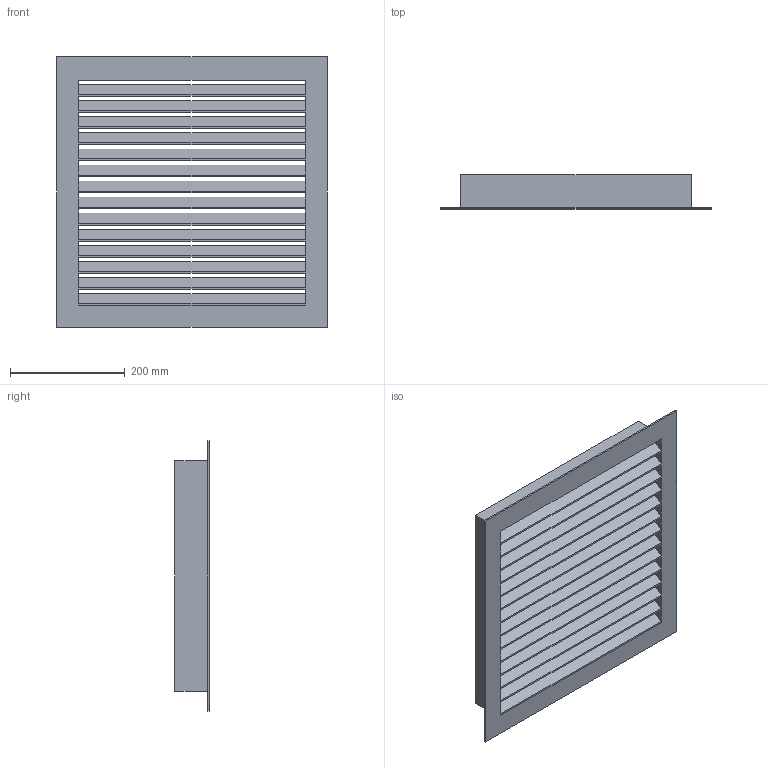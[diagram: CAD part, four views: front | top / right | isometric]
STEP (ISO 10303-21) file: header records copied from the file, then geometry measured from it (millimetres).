
FILE_DESCRIPTION(/* description */ (''),/* implementation_level */ '2;1');
FILE_NAME(/* name */ 'Z:\Output\WSG_400-00121-003.stp',/* time_stamp */ '2017-11-10T11:53:42+01:00',/* author */ ('pareshmistry'),/* organization */ (''),/* preprocessor_version */ 'ST-DEVELOPER v16.5',/* originating_system */ 'Autodesk Inventor 2017',/* authorisation */ '');
FILE_SCHEMA (('AUTOMOTIVE_DESIGN { 1 0 10303 214 3 1 1 }'));
Length unit declared in the file: millimetre
Products named in the file (1): WSG-1
Bounding box: 471 x 60 x 471 mm (x, y, z)
Volume: 970458.7 mm3; surface area: 738788.6 mm2
Topology: 1 solids, 1 shells, 58 faces, 204 edges, 136 vertices
Faces by surface type: plane 58
Entity records: 2238 total; most frequent: ORIENTED_EDGE 410, CARTESIAN_POINT 399, DIRECTION 322, LINE 204, VECTOR 204, EDGE_CURVE 204, VERTEX_POINT 136, EDGE_LOOP 75
